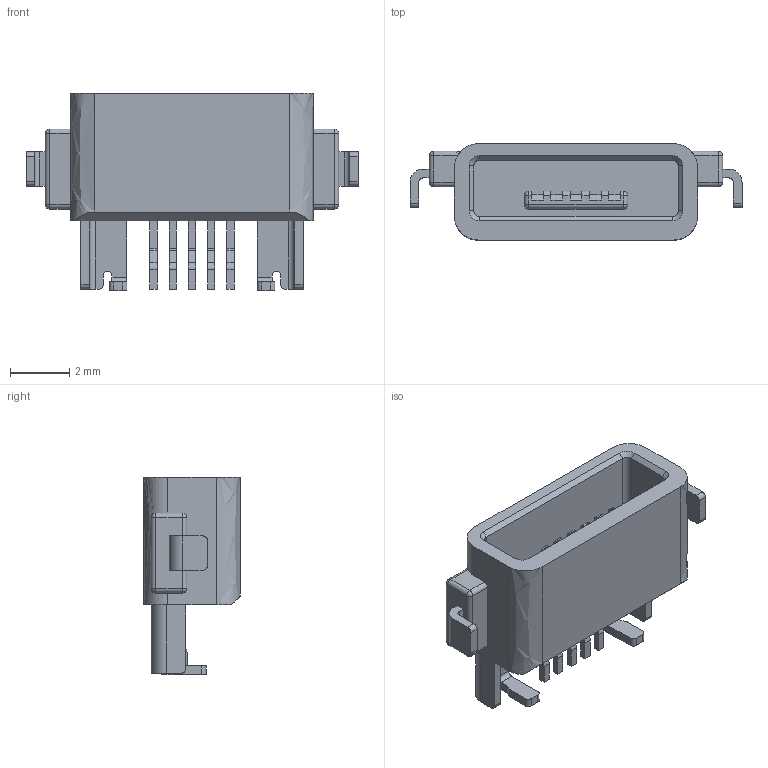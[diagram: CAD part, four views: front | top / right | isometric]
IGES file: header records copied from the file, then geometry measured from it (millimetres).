
Start section:  PTC IGES file: yj006_l36.igs
Global section: file name: yj006_l36.igs; native system: Pro/ENGINEER by Parametric Technology Corporation; preprocessor: 2002180; author: Administrator; organization: Unknown; date: 151224.104859; units: millimetre
Bounding box: 11.2 x 3.25 x 6.65 mm (x, y, z)
Surface area: 287.9 mm2 (no closed solid volume)
Topology: 0 solids, 0 shells, 246 faces, 1310 edges, 1310 vertices
Faces by surface type: bspline 143, revolution 103
